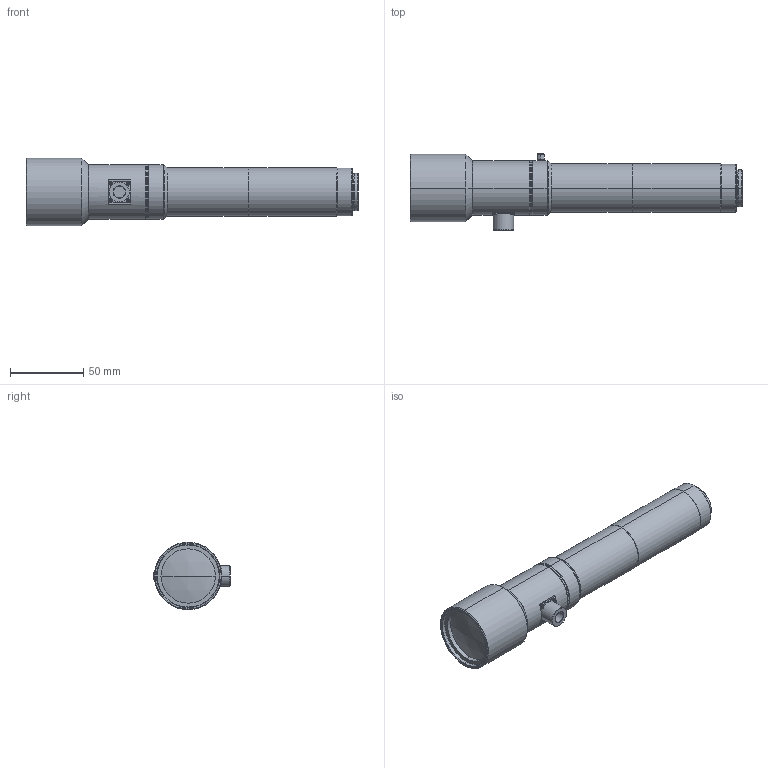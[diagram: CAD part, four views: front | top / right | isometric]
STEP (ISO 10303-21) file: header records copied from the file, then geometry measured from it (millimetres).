
FILE_DESCRIPTION (( 'STEP AP203' ), '1' );
FILE_NAME ('VS-THV4-110CO_S.STEP', '2020-09-01T07:44:51', ( '' ), ( '' ), 'SwSTEP 2.0', 'SolidWorks 2018', '' );
FILE_SCHEMA (( 'CONFIG_CONTROL_DESIGN' ));
Length unit declared in the file: millimetre
Products named in the file (1): VS-THV4-110CO_S
Bounding box: 225.97 x 51.8 x 46 mm (x, y, z)
Volume: 163931.2 mm3; surface area: 41688.8 mm2
Topology: 6 solids, 6 shells, 240 faces, 526 edges, 325 vertices
Faces by surface type: plane 96, cylinder 70, cone 64, torus 8, sphere 2
Entity records: 6667 total; most frequent: DIRECTION 1224, CARTESIAN_POINT 1124, ORIENTED_EDGE 1052, EDGE_CURVE 526, AXIS2_PLACEMENT_3D 459, VERTEX_POINT 325, VECTOR 306, LINE 306
